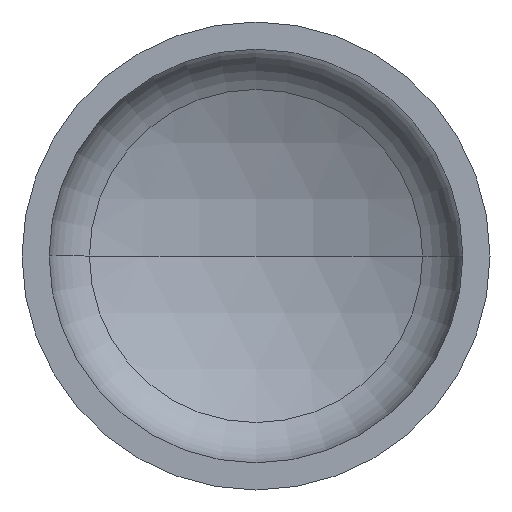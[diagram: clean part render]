
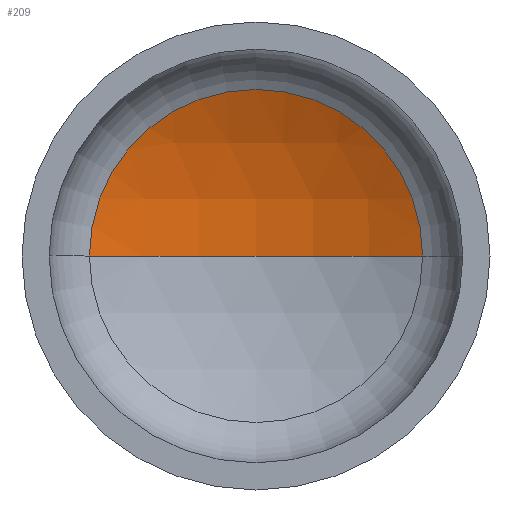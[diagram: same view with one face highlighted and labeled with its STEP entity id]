
A CAD part, front view. The second image highlights one B-rep face of the part: STEP entity #209.
In plain terms, the highlighted spherical face has radius 1600 mm.
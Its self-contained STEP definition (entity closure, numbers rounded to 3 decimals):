
#2 = DIRECTION ( 'NONE',  ( -1., 0., 0. ) ) ;
#5 = ORIENTED_EDGE ( 'NONE', *, *, #141, .F. ) ;
#9 = CARTESIAN_POINT ( 'NONE',  ( 0., -1080.259, 0. ) ) ;
#26 = VERTEX_POINT ( 'NONE', #297 ) ;
#32 = VERTEX_POINT ( 'NONE', #258 ) ;
#34 = EDGE_LOOP ( 'NONE', ( #5, #43, #146 ) ) ;
#36 = AXIS2_PLACEMENT_3D ( 'NONE', #226, #259, #282 ) ;
#43 = ORIENTED_EDGE ( 'NONE', *, *, #131, .T. ) ;
#51 = AXIS2_PLACEMENT_3D ( 'NONE', #9, #188, #117 ) ;
#52 = AXIS2_PLACEMENT_3D ( 'NONE', #334, #193, #2 ) ;
#53 = AXIS2_PLACEMENT_3D ( 'NONE', #218, #221, #207 ) ;
#86 = CIRCLE ( 'NONE', #52, 1600. ) ;
#104 = VERTEX_POINT ( 'NONE', #355 ) ;
#110 = EDGE_CURVE ( 'NONE', #26, #32, #267, .T. ) ;
#117 = DIRECTION ( 'NONE',  ( 1., 0., 0. ) ) ;
#131 = EDGE_CURVE ( 'NONE', #104, #26, #86, .T. ) ;
#141 = EDGE_CURVE ( 'NONE', #104, #32, #256, .T. ) ;
#146 = ORIENTED_EDGE ( 'NONE', *, *, #110, .T. ) ;
#188 = DIRECTION ( 'NONE',  ( 0., 0., 1. ) ) ;
#193 = DIRECTION ( 'NONE',  ( 0., 0., -1. ) ) ;
#207 = DIRECTION ( 'NONE',  ( 1., 0., 0. ) ) ;
#209 = ADVANCED_FACE ( 'NONE', ( #367 ), #250, .F. ) ;
#218 = CARTESIAN_POINT ( 'NONE',  ( 0., 352.62, 0. ) ) ;
#221 = DIRECTION ( 'NONE',  ( 0., -1., 0. ) ) ;
#226 = CARTESIAN_POINT ( 'NONE',  ( 0., -1080.259, 0. ) ) ;
#250 = SPHERICAL_SURFACE ( 'NONE', #36, 1600. ) ;
#256 = CIRCLE ( 'NONE', #51, 1600. ) ;
#258 = CARTESIAN_POINT ( 'NONE',  ( -711.938, 352.62, 0. ) ) ;
#259 = DIRECTION ( 'NONE',  ( 0., 0., -1. ) ) ;
#267 = CIRCLE ( 'NONE', #53, 711.938 ) ;
#282 = DIRECTION ( 'NONE',  ( -1., 0., 0. ) ) ;
#297 = CARTESIAN_POINT ( 'NONE',  ( 711.938, 352.62, 0. ) ) ;
#334 = CARTESIAN_POINT ( 'NONE',  ( 0., -1080.259, 0. ) ) ;
#355 = CARTESIAN_POINT ( 'NONE',  ( 0., 519.741, 0. ) ) ;
#367 = FACE_OUTER_BOUND ( 'NONE', #34, .T. ) ;
